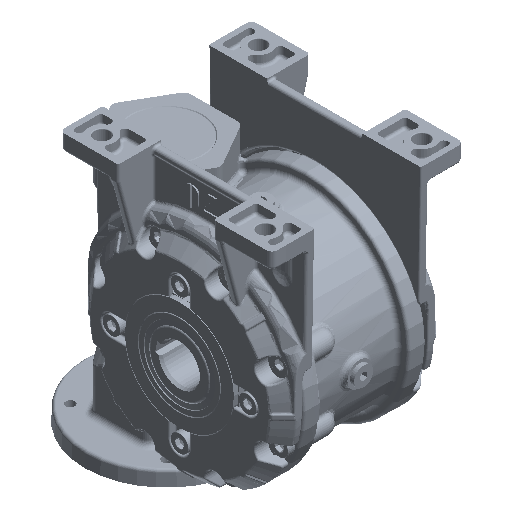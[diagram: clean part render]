
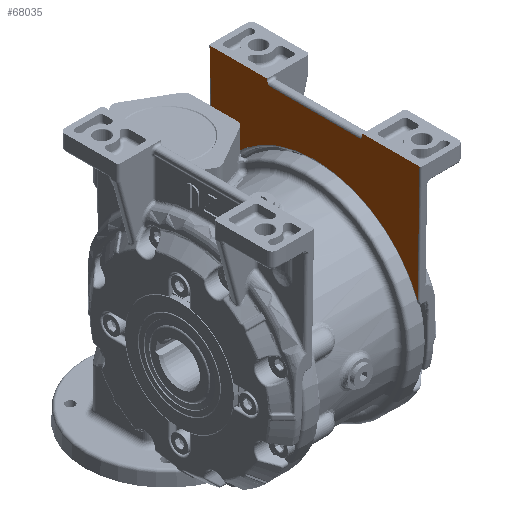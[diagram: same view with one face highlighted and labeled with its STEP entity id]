
A CAD part, isometric view. The second image highlights one B-rep face of the part: STEP entity #68035.
In plain terms, the highlighted planar face has unit normal (-1, 0, 0) as drawn and (0, 0, -1) by its records, which use the part's own axes.
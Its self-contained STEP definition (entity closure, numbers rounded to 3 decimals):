
#67262 = VERTEX_POINT ( 'NONE', #125279 ) ;
#67268 = EDGE_CURVE ( 'NONE', #67271, #67262, #125267, .T. ) ;
#67271 = VERTEX_POINT ( 'NONE', #125257 ) ;
#67273 = VERTEX_POINT ( 'NONE', #125251 ) ;
#67279 = EDGE_CURVE ( 'NONE', #67283, #67273, #125239, .T. ) ;
#67283 = VERTEX_POINT ( 'NONE', #125225 ) ;
#67993 = VERTEX_POINT ( 'NONE', #126749 ) ;
#67995 = ORIENTED_EDGE ( 'NONE', *, *, #67997, .T. ) ;
#67997 = EDGE_CURVE ( 'NONE', #67993, #68185, #128060, .T. ) ;
#68035 = ADVANCED_FACE ( 'NONE', ( #128244 ), #128241, .F. ) ;
#68040 = EDGE_LOOP ( 'NONE', ( #68043, #68242, #68251, #68257, #68260, #67995, #68188, #68194, #68197, #68206 ) ) ;
#68043 = ORIENTED_EDGE ( 'NONE', *, *, #68236, .T. ) ;
#68046 = VERTEX_POINT ( 'NONE', #128476 ) ;
#68185 = VERTEX_POINT ( 'NONE', #129127 ) ;
#68188 = ORIENTED_EDGE ( 'NONE', *, *, #68191, .T. ) ;
#68191 = EDGE_CURVE ( 'NONE', #68185, #67271, #129115, .T. ) ;
#68194 = ORIENTED_EDGE ( 'NONE', *, *, #67268, .T. ) ;
#68197 = ORIENTED_EDGE ( 'NONE', *, *, #68200, .T. ) ;
#68200 = EDGE_CURVE ( 'NONE', #67262, #68203, #129091, .T. ) ;
#68203 = VERTEX_POINT ( 'NONE', #129365 ) ;
#68206 = ORIENTED_EDGE ( 'NONE', *, *, #68209, .T. ) ;
#68209 = EDGE_CURVE ( 'NONE', #68203, #68046, #129354, .T. ) ;
#68236 = EDGE_CURVE ( 'NONE', #68046, #68239, #129245, .T. ) ;
#68239 = VERTEX_POINT ( 'NONE', #129229 ) ;
#68242 = ORIENTED_EDGE ( 'NONE', *, *, #68245, .T. ) ;
#68245 = EDGE_CURVE ( 'NONE', #68239, #68248, #129218, .T. ) ;
#68248 = VERTEX_POINT ( 'NONE', #129536 ) ;
#68251 = ORIENTED_EDGE ( 'NONE', *, *, #68253, .T. ) ;
#68253 = EDGE_CURVE ( 'NONE', #68248, #67283, #129521, .T. ) ;
#68257 = ORIENTED_EDGE ( 'NONE', *, *, #67279, .T. ) ;
#68260 = ORIENTED_EDGE ( 'NONE', *, *, #68262, .T. ) ;
#68262 = EDGE_CURVE ( 'NONE', #67273, #67993, #129501, .T. ) ;
#125225 = CARTESIAN_POINT ( 'NONE',  ( 35., -115., -11.5 ) ) ;
#125230 = DIRECTION ( 'NONE',  ( 0., 1., 0. ) ) ;
#125233 = VECTOR ( 'NONE', #125230, 1000. ) ;
#125236 = CARTESIAN_POINT ( 'NONE',  ( 35., -115., -11.5 ) ) ;
#125239 = LINE ( 'NONE', #125236, #125233 ) ;
#125251 = CARTESIAN_POINT ( 'NONE',  ( 35., -113.872, -11.5 ) ) ;
#125257 = CARTESIAN_POINT ( 'NONE',  ( -35., -113.872, -11.5 ) ) ;
#125260 = DIRECTION ( 'NONE',  ( 0., -1., 0. ) ) ;
#125263 = VECTOR ( 'NONE', #125260, 1000. ) ;
#125265 = CARTESIAN_POINT ( 'NONE',  ( -35., -115., -11.5 ) ) ;
#125267 = LINE ( 'NONE', #125265, #125263 ) ;
#125279 = CARTESIAN_POINT ( 'NONE',  ( -35., -115., -11.5 ) ) ;
#126749 = CARTESIAN_POINT ( 'NONE',  ( 33.5, -111., -11.5 ) ) ;
#128057 = CARTESIAN_POINT ( 'NONE',  ( -35., -111., -11.5 ) ) ;
#128060 = LINE ( 'NONE', #128057, #128380 ) ;
#128241 = PLANE ( 'NONE',  #128490 ) ;
#128244 = FACE_OUTER_BOUND ( 'NONE', #68040, .T. ) ;
#128378 = DIRECTION ( 'NONE',  ( -1., 0., 0. ) ) ;
#128380 = VECTOR ( 'NONE', #128378, 1000. ) ;
#128476 = CARTESIAN_POINT ( 'NONE',  ( -75.518, -29.293, -11.5 ) ) ;
#128480 = DIRECTION ( 'NONE',  ( 1., 0., 0. ) ) ;
#128483 = DIRECTION ( 'NONE',  ( 0., 0., 1. ) ) ;
#128487 = CARTESIAN_POINT ( 'NONE',  ( 0., 70., -11.5 ) ) ;
#128490 = AXIS2_PLACEMENT_3D ( 'NONE', #128487, #128483, #128480 ) ;
#129054 = CARTESIAN_POINT ( 'NONE',  ( -34.948, -113.321, -11.5 ) ) ;
#129058 = CARTESIAN_POINT ( 'NONE',  ( -34.773, -112.794, -11.5 ) ) ;
#129062 = CARTESIAN_POINT ( 'NONE',  ( -34.653, -112.547, -11.5 ) ) ;
#129066 = CARTESIAN_POINT ( 'NONE',  ( -34.369, -112.076, -11.5 ) ) ;
#129069 = CARTESIAN_POINT ( 'NONE',  ( -34.206, -111.851, -11.5 ) ) ;
#129073 = CARTESIAN_POINT ( 'NONE',  ( -33.862, -111.418, -11.5 ) ) ;
#129076 = CARTESIAN_POINT ( 'NONE',  ( -33.681, -111.209, -11.5 ) ) ;
#129080 = CARTESIAN_POINT ( 'NONE',  ( -33.5, -111., -11.5 ) ) ;
#129083 = DIRECTION ( 'NONE',  ( -1., 0., 0. ) ) ;
#129084 = VECTOR ( 'NONE', #129083, 1000. ) ;
#129088 = CARTESIAN_POINT ( 'NONE',  ( -35., -115., -11.5 ) ) ;
#129091 = LINE ( 'NONE', #129088, #129084 ) ;
#129115 = B_SPLINE_CURVE_WITH_KNOTS ( 'NONE', 3,
 ( #129080, #129076, #129073, #129069, #129066, #129062, #129058, #129054, #129376, #129372 ),
 .UNSPECIFIED., .F., .F.,
 ( 4, 2, 2, 2, 4 ),
 ( 0., 0.001, 0.002, 0.002, 0.003 ),
 .UNSPECIFIED. ) ;
#129127 = CARTESIAN_POINT ( 'NONE',  ( -33.5, -111., -11.5 ) ) ;
#129215 = CARTESIAN_POINT ( 'NONE',  ( 77., -115.017, -11.5 ) ) ;
#129218 = LINE ( 'NONE', #129215, #129543 ) ;
#129229 = CARTESIAN_POINT ( 'NONE',  ( 75.518, -29.293, -11.5 ) ) ;
#129233 = DIRECTION ( 'NONE',  ( 1., 0., 0. ) ) ;
#129236 = DIRECTION ( 'NONE',  ( 0., 0., 1. ) ) ;
#129240 = CARTESIAN_POINT ( 'NONE',  ( 0., 0., -11.5 ) ) ;
#129242 = AXIS2_PLACEMENT_3D ( 'NONE', #129240, #129236, #129233 ) ;
#129245 = CIRCLE ( 'NONE', #129242, 81. ) ;
#129345 = DIRECTION ( 'NONE',  ( 0.017, 1., 0. ) ) ;
#129349 = VECTOR ( 'NONE', #129345, 1000. ) ;
#129352 = CARTESIAN_POINT ( 'NONE',  ( -75.473, -26.717, -11.5 ) ) ;
#129354 = LINE ( 'NONE', #129352, #129349 ) ;
#129365 = CARTESIAN_POINT ( 'NONE',  ( -77., -115., -11.5 ) ) ;
#129372 = CARTESIAN_POINT ( 'NONE',  ( -35., -113.872, -11.5 ) ) ;
#129376 = CARTESIAN_POINT ( 'NONE',  ( -35., -113.593, -11.5 ) ) ;
#129433 = CARTESIAN_POINT ( 'NONE',  ( 33.5, -111., -11.5 ) ) ;
#129437 = CARTESIAN_POINT ( 'NONE',  ( 33.68, -111.208, -11.5 ) ) ;
#129441 = CARTESIAN_POINT ( 'NONE',  ( 33.862, -111.418, -11.5 ) ) ;
#129445 = CARTESIAN_POINT ( 'NONE',  ( 34.206, -111.851, -11.5 ) ) ;
#129448 = CARTESIAN_POINT ( 'NONE',  ( 34.369, -112.076, -11.5 ) ) ;
#129452 = CARTESIAN_POINT ( 'NONE',  ( 34.653, -112.547, -11.5 ) ) ;
#129456 = CARTESIAN_POINT ( 'NONE',  ( 34.773, -112.794, -11.5 ) ) ;
#129459 = CARTESIAN_POINT ( 'NONE',  ( 34.948, -113.321, -11.5 ) ) ;
#129463 = CARTESIAN_POINT ( 'NONE',  ( 35., -113.593, -11.5 ) ) ;
#129467 = CARTESIAN_POINT ( 'NONE',  ( 35., -113.872, -11.5 ) ) ;
#129501 = B_SPLINE_CURVE_WITH_KNOTS ( 'NONE', 3,
 ( #129467, #129463, #129459, #129456, #129452, #129448, #129445, #129441, #129437, #129433 ),
 .UNSPECIFIED., .F., .F.,
 ( 4, 2, 2, 2, 4 ),
 ( 0., 0.001, 0.002, 0.002, 0.003 ),
 .UNSPECIFIED. ) ;
#129516 = DIRECTION ( 'NONE',  ( -1., 0., 0. ) ) ;
#129518 = VECTOR ( 'NONE', #129516, 1000. ) ;
#129520 = CARTESIAN_POINT ( 'NONE',  ( 35., -115., -11.5 ) ) ;
#129521 = LINE ( 'NONE', #129520, #129518 ) ;
#129536 = CARTESIAN_POINT ( 'NONE',  ( 77., -115., -11.5 ) ) ;
#129541 = DIRECTION ( 'NONE',  ( 0.017, -1., 0. ) ) ;
#129543 = VECTOR ( 'NONE', #129541, 1000. ) ;
